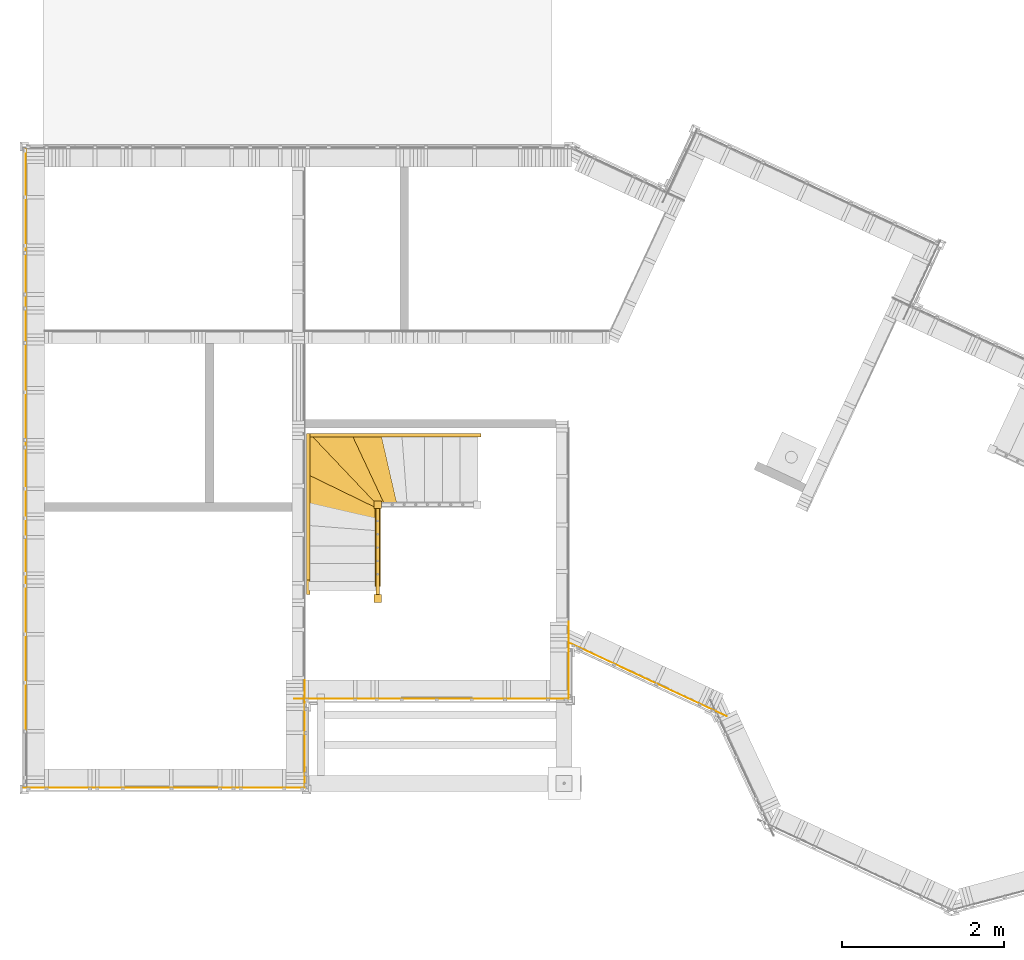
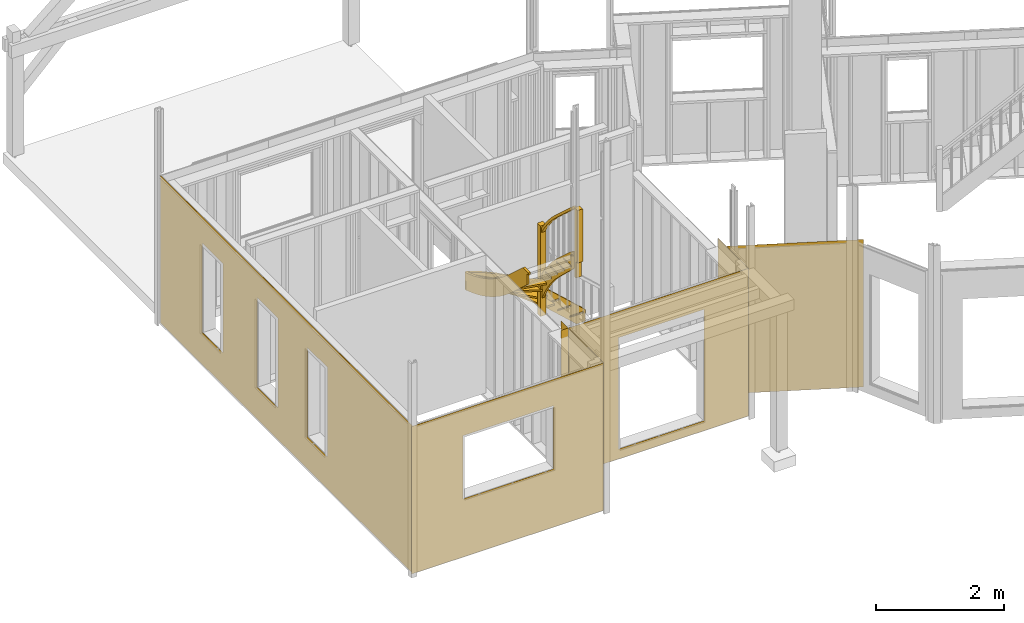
# One storey, part 29 of 34: 16 curtain walls.
"""IFC2X3 building model written with IfcOpenShell, lengths in metres."""

import ifcopenshell
import ifcopenshell.guid

model = None  # the IFC model being written
_history = None  # IfcOwnerHistory: only IFC2X3 demands one
_inside = {}  # id of a spatial element -> (the spatial element, [elements in it])
_under = {}  # id of a project, library or spatial element -> (it, [spatial elements below it])
_declared = {}  # id of a project -> (the project, [libraries it declares])
_typed = {}  # id of a type object -> (the type object, [elements of that type])
_made_of = {}  # id of a material, layer set ... -> (it, [elements and type objects made of it])


def new_model(schema):
    """Start an empty IFC model of exactly this schema.

    Asked for "IFC4X3", IfcOpenShell would pick the latest addendum, in which some entities
    have other attributes; the version numbers below select the first issue.
    IFC2X3 requires an IfcOwnerHistory on every rooted entity: one is made here for all.
    """
    global model, _history
    if schema == "IFC4X3":
        model = ifcopenshell.file(schema_version=(4, 3, 0, 0))
    else:
        model = ifcopenshell.file(schema=schema)
    _inside.clear()
    _under.clear()
    _declared.clear()
    _typed.clear()
    _made_of.clear()
    _history = None
    if model.schema == "IFC2X3":
        org = make("IfcOrganization", Name="unknown")
        user = make(
            "IfcPersonAndOrganization",
            ThePerson=make("IfcPerson", FamilyName="unknown"),
            TheOrganization=org,
        )
        app = make(
            "IfcApplication",
            ApplicationDeveloper=org,
            Version="unknown",
            ApplicationFullName="unknown",
            ApplicationIdentifier="unknown",
        )
        _history = make(
            "IfcOwnerHistory",
            OwningUser=user,
            OwningApplication=app,
            ChangeAction="ADDED",
            CreationDate=0,
        )
    return model


def make(cls, **values):
    """One entity of the class cls with the attributes given. An attribute that is None is left unset."""
    return model.create_entity(
        cls, **{name: value for name, value in values.items() if value is not None}
    )


def rooted(cls, **values):
    """An entity with a GlobalId (a new one), such as an element, a storey or a relation."""
    return make(cls, GlobalId=ifcopenshell.guid.new(), OwnerHistory=_history, **values)


def si_unit(unit_type, name, prefix=None):
    """IfcSIUnit, for example si_unit("LENGTHUNIT", "METRE", prefix="MILLI")."""
    return make("IfcSIUnit", UnitType=unit_type, Prefix=prefix, Name=name)


def assignment(units):
    """IfcUnitAssignment: the units of a project."""
    return None if units is None else make("IfcUnitAssignment", Units=units)


def point(xyz):
    """IfcCartesianPoint."""
    return None if xyz is None else make("IfcCartesianPoint", Coordinates=xyz)


def direction(xyz):
    """IfcDirection."""
    return None if xyz is None else make("IfcDirection", DirectionRatios=xyz)


def frame(location, z_axis=None, x_axis=None):
    """IfcAxis2Placement3D, a coordinate frame: its origin and axes. An axis left out is left unset."""
    return make(
        "IfcAxis2Placement3D",
        Location=point(location),
        Axis=direction(z_axis),
        RefDirection=direction(x_axis),
    )


def origin_with_axes():
    """The frame at (0, 0, 0) with the z axis (0, 0, 1) and the x axis (1, 0, 0) written out."""
    return frame((0.0, 0.0, 0.0), z_axis=(0.0, 0.0, 1.0), x_axis=(1.0, 0.0, 0.0))


def place(relative_to, where):
    """IfcLocalPlacement: puts the frame where relative to a parent placement (None: the world)."""
    return make(
        "IfcLocalPlacement", PlacementRelTo=relative_to, RelativePlacement=where
    )


def context(
    kind, dimensions, precision=None, world=None, true_north=None, identifier=None
):
    """IfcGeometricRepresentationContext, for example the 3D "Model" context."""
    return make(
        "IfcGeometricRepresentationContext",
        ContextIdentifier=identifier,
        ContextType=kind,
        CoordinateSpaceDimension=dimensions,
        Precision=precision,
        WorldCoordinateSystem=world,
        TrueNorth=true_north,
    )


def subcontext(parent, identifier, kind, view, scale=None):
    """IfcGeometricRepresentationSubContext, for example "Body" below "Model"."""
    return make(
        "IfcGeometricRepresentationSubContext",
        ContextIdentifier=identifier,
        ContextType=kind,
        ParentContext=parent,
        TargetScale=scale,
        TargetView=view,
    )


def project(units=None, contexts=None):
    """IfcProject with its units and contexts."""
    return rooted(
        "IfcProject",
        Name="project",
        RepresentationContexts=contexts,
        UnitsInContext=assignment(units),
    )


def spatial(cls, under=None, at=None, **own):
    """A site, building, storey or space (cls), placed at a placement, below another one or the project."""
    s = rooted(cls, ObjectPlacement=at, **own)
    if under is not None:
        _under.setdefault(under.id(), (under, []))[1].append(s)
    return s


def faces_of(points, faces, orient=None, outer=None):
    """IfcFace entities. A face is a list of loops; a loop is a list of indices into points, from 0.

    orient and outer hold one flag for each loop. By default every Orientation is true, the
    first loop of a face is its IfcFaceOuterBound and the others are IfcFaceBound.
    """
    made = []
    for i, loops in enumerate(faces):
        bounds = []
        for j, loop in enumerate(loops):
            is_outer = j == 0 if outer is None else outer[i][j]
            bounds.append(
                make(
                    "IfcFaceOuterBound" if is_outer else "IfcFaceBound",
                    Bound=make("IfcPolyLoop", Polygon=[points[k] for k in loop]),
                    Orientation=True if orient is None else orient[i][j],
                )
            )
        made.append(make("IfcFace", Bounds=bounds))
    return made


def faceted_brep(points, faces, orient=None, outer=None, voids=None):
    """IfcFacetedBrep: a solid bounded by flat faces; with voids (closed shells), ...WithVoids."""
    shared = [point(p) for p in points]
    hull = make("IfcClosedShell", CfsFaces=faces_of(shared, faces, orient, outer))
    if voids is None:
        return make("IfcFacetedBrep", Outer=hull)
    return make(
        "IfcFacetedBrepWithVoids",
        Outer=hull,
        Voids=[
            make(cls, CfsFaces=faces_of(shared, fs, o, b)) for cls, fs, o, b in voids
        ],
    )


def shape(context_of_items, identifier, shape_type, items):
    """IfcShapeRepresentation: the items that make up one representation, for example the "Body"."""
    return make(
        "IfcShapeRepresentation",
        ContextOfItems=context_of_items,
        RepresentationIdentifier=identifier,
        RepresentationType=shape_type,
        Items=items,
    )


def material(Name=None, Category=None):
    """IfcMaterial."""
    return make("IfcMaterial", Name=Name, Category=Category)


def made_of(thing, what):
    """Note that an element or type object is made of a material, layer set ...; save() writes the relation."""
    if what is not None:
        _made_of.setdefault(what.id(), (what, []))[1].append(thing)
    return thing


def element(
    cls,
    number,
    at=None,
    inside=None,
    cuts=None,
    type_object=None,
    material=None,
    context=None,
    identifier="Body",
    shape_type=None,
    held_by="IfcProductDefinitionShape",
    body=None,
    shapes=None,
    **own,
):
    """One element of the class cls, such as IfcWall. Its Tag is "e" and its number.

    at: its placement. inside: the storey or other place that contains it. cuts: it is an
    opening in that element (IfcRelVoidsElement). A single representation is given by context,
    identifier, shape_type and body (its items); several are given by shapes. held_by: the class
    of the entity that holds the representations. save() writes the other relations.
    """
    e = rooted(cls, Tag="e%d" % number, ObjectPlacement=at, **own)
    if body is not None:
        shapes = [shape(context, identifier, shape_type, body)]
    if shapes is not None:
        e.Representation = make(held_by, Representations=shapes)
    if inside is not None:
        _inside.setdefault(inside.id(), (inside, []))[1].append(e)
    if cuts is not None:
        rooted(
            "IfcRelVoidsElement", RelatingBuildingElement=cuts, RelatedOpeningElement=e
        )
    if type_object is not None:
        _typed.setdefault(type_object.id(), (type_object, []))[1].append(e)
    return made_of(e, material)


def aggregate(whole, parts):
    """IfcRelAggregates: a whole, such as a stair, and the parts it consists of."""
    return rooted("IfcRelAggregates", RelatingObject=whole, RelatedObjects=parts)


def save(model, path):
    """Write the relations noted so far, then the file.

    IfcRelAggregates (storeys below a building ...), IfcRelContainedInSpatialStructure (elements
    in a storey), IfcRelDefinesByType, IfcRelAssociatesMaterial and IfcRelDeclares: one each for
    every whole, place, type object, material and project.
    """
    for whole, parts in _under.values():
        aggregate(whole, parts)
    for where, things in _inside.values():
        rooted(
            "IfcRelContainedInSpatialStructure",
            RelatedElements=things,
            RelatingStructure=where,
        )
    for kind, things in _typed.values():
        rooted("IfcRelDefinesByType", RelatedObjects=things, RelatingType=kind)
    for what, things in _made_of.values():
        rooted("IfcRelAssociatesMaterial", RelatedObjects=things, RelatingMaterial=what)
    for by, libraries in _declared.values():
        rooted("IfcRelDeclares", RelatingContext=by, RelatedDefinitions=libraries)
    model.write(path)


model = new_model("IFC2X3")

# Units and contexts
model_context = context("Model", 3, precision=1e-06, world=origin_with_axes(), true_north=direction((0.0, 1.0, 0.0)))
body_context = subcontext(model_context, "Body", "Model", "MODEL_VIEW")
ifc_project = project(units=[si_unit("LENGTHUNIT", "METRE"), si_unit("AREAUNIT", "SQUARE_METRE"), si_unit("VOLUMEUNIT", "CUBIC_METRE"), si_unit("PLANEANGLEUNIT", "RADIAN")], contexts=[model_context])

# Site, building, storey
site_placement = place(None, origin_with_axes())
site = spatial("IfcSite", under=ifc_project, at=site_placement, CompositionType="ELEMENT")
building_placement = place(site_placement, origin_with_axes())
building = spatial("IfcBuilding", under=site, at=building_placement, Name="Building 1", CompositionType="ELEMENT")
storey_placement = place(building_placement, origin_with_axes())
storey = spatial("IfcBuildingStorey", under=building, at=storey_placement, Name="Rez de chaussée", CompositionType="ELEMENT", Elevation=0.0)

# Curtain walls
ifc_material_1 = material(Name="pare-pluie")
curtain_wall_1_placement = place(storey_placement, frame((3.44855, 0.6663641, -0.06), z_axis=(0.0, 0.0, 1.0), x_axis=(0.0, -1.0, 0.0)))
element("IfcCurtainWall", 1, at=curtain_wall_1_placement, inside=storey, material=ifc_material_1, Name="Pare-pluie", context=body_context, shape_type="Brep", body=[
    faceted_brep([(0.6664641, -0.00045, 2.823), (0.6664641, -0.00045, 0.0), (0.6664641, 0.00045, 0.0), (0.6664641, 0.00045, 2.823), (-0.6664641, -0.00045, 0.0), (-0.6664641, 0.00045, 0.0), (-0.6664641, -0.00045, 2.823), (-0.6664641, 0.00045, 2.823)], [[[0, 1, 2, 3]], [[2, 1, 4, 5]], [[1, 0, 6, 4]], [[0, 3, 7, 6]], [[6, 7, 5, 4]], [[3, 2, 5, 7]]]),
])
curtain_wall_2_placement = place(storey_placement, frame((5.01205, 1.1002781, -0.06), z_axis=(0.0, 0.0, 1.0), x_axis=(0.0, 1.0, 0.0)))
element("IfcCurtainWall", 2, at=curtain_wall_2_placement, inside=storey, material=ifc_material_1, Name="Pare-pluie", context=body_context, shape_type="Brep", body=[
    faceted_brep([(0.00045, -1.69605, 2.823), (-0.00045, -1.69605, 2.823), (-0.00045, -1.69605, 0.0), (0.00045, -1.69605, 0.0), (-0.00045, 1.69605, 2.823), (-0.00045, 1.69605, 0.0), (-0.00045, -0.8853876, 0.189), (-0.00045, 0.6546124, 0.189), (-0.00045, 0.6546124, 2.32), (-0.00045, -0.8853876, 2.32), (0.00045, 1.69605, 2.823), (0.00045, 0.6546124, 0.189), (0.00045, 0.6546124, 2.32), (0.00045, -0.8853876, 2.32), (0.00045, -0.8853876, 0.189), (0.00045, 1.69605, 0.0)], [[[0, 1, 2, 3]], [[2, 1, 4, 5], [6, 7, 8, 9]], [[1, 0, 10, 4]], [[8, 7, 11, 12]], [[9, 8, 12, 13]], [[6, 9, 13, 14]], [[7, 6, 14, 11]], [[4, 10, 15, 5]], [[3, 2, 5, 15]], [[0, 3, 15, 10], [14, 13, 12, 11]]]),
])
ifc_material_2 = material(Name="NH II")
curtain_wall_3_placement = place(storey_placement, frame((3.4707023, 4.3577176, 1.7899561), z_axis=(0.5668178, 0.0, 0.8238432), x_axis=(0.8238432, 0.0, -0.5668178)))
element("IfcCurtainWall", 3, at=curtain_wall_3_placement, inside=storey, material=ifc_material_2, Name="Escalier", context=body_context, shape_type="Brep", body=[
    faceted_brep([(2.5602899, -0.0205, -0.2048183), (1.8251752, -0.0205, -0.1023123), (2.5602899, 0.0205, -0.2048183), (1.8251752, 0.0205, -0.1023123), (2.6946711, -0.0205, -0.1123618), (2.5654796, -0.0205, 0.0048425), (2.5708781, -0.0205, 0.0675655), (2.5479083, -0.0205, 0.0303817), (2.2709408, -0.0205, 0.0459136), (2.3424665, -0.0205, -0.1109657), (2.0654941, -0.0205, -0.0954372), (2.3600379, -0.0205, -0.1365048), (2.2533694, -0.0205, 0.0714527), (1.7009376, -0.0205, 0.1888717), (1.9588289, -0.0205, 0.1125227), (1.6818639, -0.0205, 0.1280563), (1.7533872, -0.0205, -0.0288247), (1.5514009, -0.0205, -0.0734495), (1.7709585, -0.0205, -0.0543638), (1.9764003, -0.0205, 0.0869835), (2.0479227, -0.0205, -0.069898), (1.4506075, -0.0205, -0.031052), (1.2763081, -0.0205, -0.0629887), (1.4330362, -0.0205, -0.0055128), (1.3615857, -0.0205, 0.1514183), (1.1040221, -0.0205, -0.0257897), (1.4162261, -0.0205, 0.2184646), (1.6642926, -0.0205, 0.1535954), (1.3440144, -0.0205, 0.1769574), (1.1301428, -0.0205, 0.2280985), (1.0864508, -0.0205, -0.0002506), (1.0155666, -0.0205, 0.1570701), (1.0011324, -0.0205, -0.0709767), (0.7234937, -0.0205, -0.043881), (0.7271098, -0.0205, -0.0973778), (0.7059223, -0.0205, -0.0183418), (0.4554707, -0.0205, -0.1420732), (0.6369743, -0.0205, 0.140311), (0.200804, -0.0205, -0.1597814), (0.8440854, -0.0205, 0.2177262), (0.9979952, -0.0205, 0.1826092), (0.6194029, -0.0205, 0.1658501), (0.5594512, -0.0205, 0.1873985), (0.1832327, -0.0205, -0.1342423), (0.2776305, -0.0205, 0.1372635), (0.1210803, -0.0205, 0.029086), (0.1035089, -0.0205, 0.0546252), (0.1874353, -0.0205, -0.2048624), (0.1536578, -0.0205, -0.2281019), (0.0599401, -0.0205, -0.0918877), (0.0, -0.0205, 0.0675661), (0.0392986, -0.0205, 0.0104474), (0.05687, -0.0205, -0.0150918), (0.0937177, -0.0205, -0.0686481), (0.1085615, -0.0045, 0.0204729), (0.05687, -0.0045, -0.0150918), (0.0392986, -0.0045, 0.0104474), (0.0909902, -0.0045, 0.0460121), (0.0937177, 0.0205, -0.0686481), (0.0, 0.0205, 0.0675661), (0.200804, -0.0045, -0.1597814), (0.6308024, -0.0045, 0.1360646), (0.613231, -0.0045, 0.1616038), (0.1832327, -0.0045, -0.1342423), (0.7234937, -0.0045, -0.043881), (1.0125483, -0.0045, 0.1549934), (0.9949769, -0.0045, 0.1805326), (0.7059223, -0.0045, -0.0183418), (1.3605788, -0.0045, 0.1507255), (1.1040221, -0.0045, -0.0257897), (1.3430074, -0.0045, 0.1762647), (1.0864508, -0.0045, -0.0002506), (1.6642926, -0.0045, 0.1535954), (1.4330362, -0.0045, -0.0055128), (1.6818639, -0.0045, 0.1280563), (1.4506075, -0.0045, -0.031052), (1.7709585, -0.0045, -0.0543638), (1.7533872, -0.0045, -0.0288247), (1.9588289, -0.0045, 0.1125227), (1.9764003, -0.0045, 0.0869835), (2.0654941, -0.0045, -0.0954372), (2.0479227, -0.0045, -0.069898), (2.2533694, -0.0045, 0.0714527), (2.2709408, -0.0045, 0.0459136), (2.3600379, -0.0045, -0.1365048), (2.3424665, -0.0045, -0.1109657), (2.5479083, -0.0045, 0.0303817), (2.5654796, -0.0045, 0.0048425), (0.0599401, 0.0205, -0.0918877), (0.1536578, 0.0205, -0.2281019), (0.1874353, 0.0205, -0.2048624), (0.2776305, 0.0205, 0.1372635), (0.5594512, 0.0205, 0.1873985), (0.8440854, 0.0205, 0.2177262), (1.1301428, 0.0205, 0.2280985), (1.4162261, 0.0205, 0.2184646), (1.7009376, 0.0205, 0.1888717), (2.5708781, 0.0205, 0.0675655), (2.6946711, 0.0205, -0.1123618), (1.5514009, 0.0205, -0.0734495), (1.2763081, 0.0205, -0.0629887), (1.0011324, 0.0205, -0.0709767), (0.7271098, 0.0205, -0.0973778), (0.4554707, 0.0205, -0.1420732)], [[[0, 1, 2]], [[2, 1, 3]], [[0, 4, 5]], [[5, 4, 6]], [[5, 6, 7]], [[7, 6, 8]], [[7, 8, 9]], [[9, 8, 10]], [[9, 10, 11]], [[11, 10, 0]], [[11, 0, 5]], [[8, 6, 12]], [[12, 6, 13]], [[12, 13, 14]], [[14, 13, 15]], [[14, 15, 16]], [[16, 15, 17]], [[16, 17, 18]], [[18, 17, 1]], [[18, 1, 19]], [[19, 1, 20]], [[19, 20, 12]], [[0, 10, 1]], [[1, 10, 20]], [[14, 19, 12]], [[15, 21, 17]], [[17, 21, 22]], [[21, 23, 22]], [[22, 23, 24]], [[22, 24, 25]], [[24, 23, 26]], [[26, 23, 27]], [[26, 27, 13]], [[13, 27, 15]], [[24, 26, 28]], [[28, 26, 29]], [[28, 29, 30]], [[30, 29, 31]], [[30, 31, 32]], [[32, 31, 33]], [[32, 33, 34]], [[34, 33, 35]], [[34, 35, 36]], [[36, 35, 37]], [[36, 37, 38]], [[22, 25, 32]], [[32, 25, 30]], [[37, 35, 39]], [[39, 35, 40]], [[39, 40, 29]], [[29, 40, 31]], [[37, 39, 41]], [[41, 39, 42]], [[41, 42, 43]], [[43, 42, 44]], [[43, 44, 45]], [[45, 44, 46]], [[36, 38, 47]], [[47, 38, 43]], [[47, 43, 48]], [[48, 43, 49]], [[44, 50, 46]], [[46, 50, 51]], [[52, 53, 45]], [[45, 53, 43]], [[53, 49, 43]], [[45, 54, 52]], [[52, 54, 55]], [[55, 54, 56]], [[56, 54, 57]], [[46, 51, 57]], [[57, 51, 56]], [[57, 54, 46]], [[46, 54, 45]], [[52, 55, 53]], [[53, 55, 58]], [[55, 56, 58]], [[58, 56, 59]], [[51, 50, 56]], [[56, 50, 59]], [[60, 38, 61]], [[61, 38, 37]], [[62, 61, 41]], [[41, 61, 37]], [[62, 63, 61]], [[61, 63, 60]], [[62, 41, 43]], [[62, 43, 63]], [[38, 60, 43]], [[43, 60, 63]], [[64, 33, 65]], [[65, 33, 31]], [[66, 40, 35]], [[66, 35, 67]], [[66, 65, 40]], [[40, 65, 31]], [[66, 67, 65]], [[65, 67, 64]], [[33, 64, 35]], [[35, 64, 67]], [[24, 68, 25]], [[25, 68, 69]], [[28, 30, 70]], [[70, 30, 71]], [[70, 71, 68]], [[68, 71, 69]], [[25, 69, 30]], [[30, 69, 71]], [[28, 70, 24]], [[24, 70, 68]], [[27, 23, 72]], [[72, 23, 73]], [[27, 72, 15]], [[15, 72, 74]], [[21, 15, 75]], [[75, 15, 74]], [[75, 74, 73]], [[73, 74, 72]], [[21, 75, 23]], [[23, 75, 73]], [[18, 76, 16]], [[16, 76, 77]], [[14, 16, 78]], [[78, 16, 77]], [[19, 14, 79]], [[79, 14, 78]], [[78, 77, 79]], [[79, 77, 76]], [[18, 19, 76]], [[76, 19, 79]], [[10, 80, 20]], [[20, 80, 81]], [[12, 20, 82]], [[82, 20, 81]], [[80, 83, 81]], [[81, 83, 82]], [[12, 82, 8]], [[8, 82, 83]], [[10, 8, 80]], [[80, 8, 83]], [[11, 84, 9]], [[9, 84, 85]], [[7, 9, 86]], [[86, 9, 85]], [[84, 87, 85]], [[85, 87, 86]], [[7, 86, 5]], [[5, 86, 87]], [[11, 5, 84]], [[84, 5, 87]], [[49, 88, 48]], [[48, 88, 89]], [[58, 88, 53]], [[53, 88, 49]], [[89, 90, 48]], [[48, 90, 47]], [[50, 44, 59]], [[59, 44, 91]], [[44, 42, 91]], [[91, 42, 92]], [[42, 39, 92]], [[92, 39, 93]], [[39, 29, 93]], [[93, 29, 94]], [[29, 26, 94]], [[94, 26, 95]], [[26, 13, 95]], [[95, 13, 96]], [[13, 6, 96]], [[96, 6, 97]], [[98, 97, 4]], [[4, 97, 6]], [[2, 98, 0]], [[0, 98, 4]], [[1, 17, 3]], [[3, 17, 99]], [[17, 22, 99]], [[99, 22, 100]], [[22, 32, 100]], [[100, 32, 101]], [[32, 34, 101]], [[101, 34, 102]], [[34, 36, 102]], [[102, 36, 103]], [[36, 47, 103]], [[103, 47, 90]], [[98, 2, 97]], [[97, 2, 3]], [[97, 3, 96]], [[96, 3, 99]], [[96, 99, 95]], [[95, 99, 100]], [[95, 100, 94]], [[94, 100, 101]], [[94, 101, 93]], [[93, 101, 102]], [[93, 102, 92]], [[92, 102, 103]], [[92, 103, 91]], [[91, 103, 90]], [[91, 90, 58]], [[58, 90, 89]], [[58, 89, 88]], [[58, 59, 91]]]),
])
curtain_wall_4_placement = place(storey_placement, frame((1.71155, -0.00055, -0.06), z_axis=(0.0, 0.0, 1.0), x_axis=(-1.0, 0.0, 0.0)))
element("IfcCurtainWall", 4, at=curtain_wall_4_placement, inside=storey, material=ifc_material_1, Name="Pare-pluie", context=body_context, shape_type="Brep", body=[
    faceted_brep([(-1.73655, -0.00045, 2.823), (-1.73655, 0.00045, 2.823), (-1.73655, 0.00045, 0.0), (-1.73655, -0.00045, 0.0), (1.73655, 0.00045, 2.823), (1.73655, 0.00045, 0.0), (-0.83245, 0.00045, 1.112), (0.80755, 0.00045, 1.112), (0.80755, 0.00045, 2.32), (-0.83245, 0.00045, 2.32), (1.73655, -0.00045, 2.823), (-0.83245, -0.00045, 2.32), (-0.83245, -0.00045, 1.112), (0.80755, -0.00045, 2.32), (0.80755, -0.00045, 1.112), (1.73655, -0.00045, 0.0)], [[[0, 1, 2, 3]], [[2, 1, 4, 5], [6, 7, 8, 9]], [[1, 0, 10, 4]], [[11, 12, 6, 9]], [[13, 11, 9, 8]], [[14, 13, 8, 7]], [[12, 14, 7, 6]], [[0, 3, 15, 10], [13, 14, 12, 11]], [[4, 10, 15, 5]], [[3, 2, 5, 15]]]),
])
curtain_wall_5_placement = place(storey_placement, frame((6.70855, 1.5761012, -0.06), z_axis=(0.0, 0.0, 1.0), x_axis=(0.0, -1.0, 0.0)))
element("IfcCurtainWall", 5, at=curtain_wall_5_placement, inside=storey, material=ifc_material_1, Name="Pare-pluie", context=body_context, shape_type="Brep", body=[
    faceted_brep([(0.4753731, 0.00045, 2.823), (0.4753731, -0.00045, 2.823), (0.4753731, -0.00045, 0.0), (0.4753731, 0.00045, 0.0), (-0.4753731, -0.00045, 2.823), (-0.4753731, -0.00045, 0.0), (-0.4753731, 0.00045, 2.823), (-0.4753731, 0.00045, 0.0)], [[[0, 1, 2, 3]], [[2, 1, 4, 5]], [[1, 0, 6, 4]], [[4, 6, 7, 5]], [[0, 3, 7, 6]], [[3, 2, 5, 7]]]),
])
curtain_wall_6_placement = place(storey_placement, frame((-0.00055, 3.954, -0.06), z_axis=(0.0, 0.0, 1.0), x_axis=(0.0, 1.0, 0.0)))
element("IfcCurtainWall", 6, at=curtain_wall_6_placement, inside=storey, material=ifc_material_1, Name="Pare-pluie", context=body_context, shape_type="Brep", body=[
    faceted_brep([(-3.9541, -0.00045, 0.0), (-3.9541, -0.00045, 2.823), (-3.9541, 0.00045, 2.823), (-3.9541, 0.00045, 0.0), (3.9541, -0.00045, 2.823), (3.9541, 0.00045, 2.823), (3.9541, -0.00045, 0.0), (1.9941735, -0.00045, 0.612), (1.9941735, -0.00045, 2.32), (2.6341735, -0.00045, 2.32), (2.6341735, -0.00045, 0.612), (0.2738031, -0.00045, 0.612), (0.2738031, -0.00045, 2.32), (0.9138031, -0.00045, 2.32), (0.9138031, -0.00045, 0.612), (-1.2839436, -0.00045, 0.612), (-1.2839436, -0.00045, 2.32), (-0.6439436, -0.00045, 2.32), (-0.6439436, -0.00045, 0.612), (3.9541, 0.00045, 0.0), (2.6341735, 0.00045, 2.32), (2.6341735, 0.00045, 0.612), (1.9941735, 0.00045, 2.32), (1.9941735, 0.00045, 0.612), (0.9138031, 0.00045, 2.32), (0.9138031, 0.00045, 0.612), (0.2738031, 0.00045, 2.32), (0.2738031, 0.00045, 0.612), (-0.6439436, 0.00045, 2.32), (-0.6439436, 0.00045, 0.612), (-1.2839436, 0.00045, 2.32), (-1.2839436, 0.00045, 0.612)], [[[0, 1, 2, 3]], [[2, 1, 4, 5]], [[1, 0, 6, 4], [7, 8, 9, 10], [11, 12, 13, 14], [15, 16, 17, 18]], [[5, 4, 6, 19]], [[20, 21, 10, 9]], [[22, 20, 9, 8]], [[23, 22, 8, 7]], [[21, 23, 7, 10]], [[24, 25, 14, 13]], [[26, 24, 13, 12]], [[27, 26, 12, 11]], [[25, 27, 11, 14]], [[28, 29, 18, 17]], [[30, 28, 17, 16]], [[31, 30, 16, 15]], [[29, 31, 15, 18]], [[3, 2, 5, 19], [20, 22, 23, 21], [24, 26, 27, 25], [28, 30, 31, 29]], [[0, 3, 19, 6]]]),
])
curtain_wall_7_placement = place(storey_placement, frame((4.3475, 3.4987176, 1.2582827), z_axis=(0.0, 0.0, 1.0), x_axis=(0.0, 1.0, 0.0)))
element("IfcCurtainWall", 7, at=curtain_wall_7_placement, inside=storey, material=ifc_material_2, Name="Escalier", context=body_context, shape_type="Brep", body=[
    faceted_brep([(-0.0485, 0.0485, 1.7321335), (0.0485, 0.0485, 1.7321335), (0.0485, 0.0485, 0.0), (-0.0485, 0.0485, 0.0), (0.0485, -0.0485, 1.7321335), (0.0485, -0.0485, 0.0), (-0.0485, -0.0485, 1.7321335), (-0.0485, -0.0485, 0.0)], [[[0, 1, 2, 3]], [[1, 4, 5, 2]], [[4, 6, 7, 5]], [[6, 0, 3, 7]], [[1, 0, 6, 4]], [[7, 3, 2, 5]]]),
])
curtain_wall_8_placement = place(storey_placement, frame((4.3475, 2.3407176, 2.6691968), z_axis=(0.0, 0.0, 1.0), x_axis=(-1.0, 0.0, 0.0)))
element("IfcCurtainWall", 8, at=curtain_wall_8_placement, inside=storey, material=ifc_material_2, Name="Escalier", context=body_context, shape_type="Brep", body=[
    faceted_brep([(-0.0485, 0.0025, 0.0), (-0.0485, 0.0025, 0.3118032), (0.0485, 0.0025, 0.3118032), (0.0485, 0.0025, 0.0), (-0.0485, 0.0485, 0.3118032), (0.0485, 0.0485, 0.3118032), (0.0485, -0.0485, 1.319462), (-0.0485, -0.0485, 1.319462), (-0.0485, -0.0485, 0.0), (0.0485, -0.0485, 0.0), (0.0485, 0.0485, 1.319462), (-0.0485, 0.0485, 1.319462)], [[[0, 1, 2, 3]], [[1, 4, 5, 2]], [[6, 7, 8, 9]], [[10, 11, 7, 6]], [[0, 3, 9, 8]], [[3, 2, 5, 10, 6, 9]], [[1, 0, 8, 7, 11, 4]], [[5, 4, 11, 10]]]),
])
curtain_wall_9_placement = place(storey_placement, frame((7.6843764, 1.3395193, -0.06), z_axis=(0.0, 0.0, 1.0), x_axis=(-0.9063078, 0.4226183, 0.0)))
element("IfcCurtainWall", 9, at=curtain_wall_9_placement, inside=storey, material=ifc_material_1, Name="Pare-pluie", context=body_context, shape_type="Brep", body=[
    faceted_brep([(1.0777481, -0.00045, 2.823), (-1.0777481, -0.00045, 2.823), (-1.0777481, -0.00045, 0.0), (1.0777481, -0.00045, 0.0), (-1.0777481, 0.00045, 0.0), (1.0777481, 0.00045, 0.0), (-1.0777481, 0.00045, 2.823), (1.0777481, 0.00045, 2.823)], [[[0, 1, 2, 3]], [[4, 5, 3, 2]], [[6, 7, 5, 4]], [[7, 0, 3, 5]], [[7, 6, 1, 0]], [[1, 6, 4, 2]]]),
])
curtain_wall_10_placement = place(storey_placement, frame((4.2490256, 3.3390162, 1.760788), z_axis=(0.0, 0.0, 1.0), x_axis=(-0.6886437, 0.7250999, 0.0)))
element("IfcCurtainWall", 10, at=curtain_wall_10_placement, inside=storey, material=ifc_material_2, Name="Escalier", context=body_context, shape_type="Brep", body=[
    faceted_brep([(0.8795447, 0.2073269, -0.0155), (0.8795447, 0.2073269, 0.0155), (1.2560296, -0.1502293, 0.0155), (1.2560296, -0.1502293, -0.0155), (0.0110183, -0.1180004, 0.0155), (0.0, -0.129602, 0.0155), (0.0543475, -0.1812171, 0.0155), (0.0400168, -0.1963064, 0.0155), (0.0516184, -0.2073247, 0.0155), (1.1797368, -0.2073269, 0.0155), (1.2018027, -0.2073269, 0.0155), (1.2018027, -0.2073269, -0.0155), (1.1797368, -0.2073269, -0.0155), (0.0543475, -0.1812171, -0.0155), (0.0400168, -0.1963064, -0.0155), (0.0, -0.129602, -0.0155), (0.0516184, -0.2073247, -0.0155), (0.0110183, -0.1180004, -0.0155)], [[[0, 1, 2, 3]], [[1, 4, 5, 6, 7, 8, 9, 10, 2]], [[11, 10, 9, 12]], [[10, 11, 3, 2]], [[13, 14, 7, 6]], [[15, 13, 6, 5]], [[14, 16, 8, 7]], [[17, 15, 5, 4]], [[16, 12, 9, 8]], [[17, 0, 3, 11, 12, 16, 14, 13, 15]], [[0, 17, 4, 1]]]),
])
curtain_wall_11_placement = place(storey_placement, frame((4.3475, 3.477874, 2.8837183), z_axis=(0.0, -0.6759316, 0.7369643), x_axis=(-1.0, 0.0, 0.0)))
element("IfcCurtainWall", 11, at=curtain_wall_11_placement, inside=storey, material=ifc_material_2, Name="Escalier", context=body_context, shape_type="Brep", body=[
    faceted_brep([(0.034, -0.0179421, 0.0604781), (-0.034, -0.0179421, 0.0604781), (0.034, 0.0375275, 0.0), (-0.034, 0.0375275, 0.0), (0.034, 0.0558508, 1.4017636), (0.034, -0.0015997, 0.7459118), (-0.034, 0.0558508, 1.4017636), (-0.034, -0.0015997, 0.7459118), (-0.034, 0.0155368, 1.4457177), (-0.034, -0.0454357, 0.7497517), (0.034, 0.0155368, 1.4457177), (0.034, -0.0454357, 0.7497517), (-0.034, 0.0130262, 0.147839), (0.034, 0.0130262, 0.147839), (-0.034, -0.0031748, 0.2968162), (0.034, -0.0031748, 0.2968162), (-0.034, -0.0110247, 0.4464661), (0.034, -0.0110247, 0.4464661), (-0.034, -0.0104992, 0.5963207), (0.034, -0.0104992, 0.5963207), (-0.034, -0.0413014, 0.2317874), (-0.034, -0.0536962, 0.4042371), (-0.034, -0.0550762, 0.5771261), (0.034, -0.0413014, 0.2317874), (0.034, -0.0536962, 0.4042371), (0.034, -0.0550762, 0.5771261)], [[[0, 1, 2]], [[2, 1, 3]], [[4, 5, 6]], [[6, 5, 7]], [[8, 9, 10]], [[10, 9, 11]], [[8, 10, 6]], [[6, 10, 4]], [[3, 12, 2]], [[2, 12, 13]], [[12, 14, 13]], [[13, 14, 15]], [[14, 16, 15]], [[15, 16, 17]], [[16, 18, 17]], [[17, 18, 19]], [[18, 7, 19]], [[19, 7, 5]], [[3, 1, 12]], [[12, 1, 20]], [[12, 20, 14]], [[14, 20, 21]], [[14, 21, 16]], [[16, 21, 22]], [[16, 22, 18]], [[18, 22, 9]], [[18, 9, 7]], [[7, 9, 6]], [[9, 8, 6]], [[2, 13, 0]], [[0, 13, 23]], [[13, 15, 23]], [[23, 15, 24]], [[15, 17, 24]], [[24, 17, 25]], [[17, 19, 25]], [[25, 19, 11]], [[19, 5, 11]], [[11, 5, 4]], [[11, 4, 10]], [[0, 23, 1]], [[1, 23, 20]], [[23, 24, 20]], [[20, 24, 21]], [[24, 25, 21]], [[21, 25, 22]], [[25, 11, 22]], [[22, 11, 9]]]),
])
curtain_wall_12_placement = place(storey_placement, frame((4.3475, 3.585461, 1.7262843), z_axis=(0.0, -0.6759316, 0.7369643), x_axis=(-1.0, 0.0, 0.0)))
element("IfcCurtainWall", 12, at=curtain_wall_12_placement, inside=storey, material=ifc_material_2, Name="Escalier", context=body_context, shape_type="Brep", body=[
    faceted_brep([(0.0205, -0.067247, 1.8451449), (-0.0205, -0.067247, 1.8451449), (0.0205, -0.1251286, 1.6420569), (-0.0205, -0.1251286, 1.6420569), (-0.0205, 0.1326957, 1.6271485), (0.0205, 0.1326957, 1.6271485), (-0.0205, 0.084154, 0.923), (0.0205, 0.084154, 0.923), (0.0205, -0.0192586, 1.7928234), (0.0045, -0.0192586, 1.7928234), (0.0205, -0.0656873, 1.6002397), (0.0045, -0.0656873, 1.6002397), (0.0045, -0.0402124, 1.8156693), (0.0205, -0.0402124, 1.8156693), (0.0045, -0.0866412, 1.6230856), (0.0205, -0.0866412, 1.6230856), (0.0205, 0.0711853, 1.4953915), (0.0205, 0.0921392, 1.4725456), (0.0205, 0.066186, 1.1762916), (0.0205, -0.117593, 1.0077325), (0.0205, 0.0192797, 0.9028842), (0.0205, -0.1831045, 0.9052228), (0.0205, -0.1414751, 0.7554426), (0.0205, -0.1798341, 0.7179456), (0.0205, -0.1205212, 0.7325967), (0.0205, -0.163493, 0.5313541), (0.0205, 0.0164159, 0.6278075), (0.0205, -0.1213784, 0.5014249), (0.0205, -0.1125915, 1.3268344), (0.0205, -0.1732881, 1.0922711), (0.0205, -0.0916376, 1.3039885), (0.0205, -0.1385469, 1.0305784), (0.0205, 0.0452321, 1.1991375), (0.0205, -0.1341609, 0.3463594), (0.0205, -0.1004245, 0.478579), (0.0205, -0.0698471, 0.2762384), (0.0205, 0.0370213, 0.3742564), (0.0205, 0.0658705, 0.1282663), (0.0205, 0.0820481, 0.1431042), (0.0205, -0.0488932, 0.2533925), (0.0205, 0.1349647, 0.1803771), (0.0205, 0.0579752, 0.3514105), (0.0205, 0.1005893, 0.3639834), (0.0205, 0.0805964, 0.5497069), (0.0205, 0.0373697, 0.6049616), (0.0205, 0.103002, 0.1202583), (0.0205, 0.1835142, 0.0), (0.0205, 0.0868244, 0.1054204), (0.0205, 0.0751068, 0.7364227), (0.0205, 0.0402335, 0.8800383), (0.0045, 0.0711853, 1.4953915), (0.0045, 0.0921392, 1.4725456), (0.0045, -0.0916376, 1.3039885), (0.0045, -0.1125915, 1.3268344), (0.0045, 0.0452321, 1.1991375), (0.0045, 0.066186, 1.1762916), (0.0045, -0.117593, 1.0077325), (0.0045, -0.1385469, 1.0305784), (0.0045, 0.0192797, 0.9028842), (0.0045, 0.0402335, 0.8800383), (0.0045, -0.1196205, 0.7334228), (0.0045, -0.1405744, 0.7562687), (0.0045, -0.0977223, 0.4810574), (0.0045, 0.0373697, 0.6049616), (0.0045, -0.1186762, 0.5039033), (0.0045, 0.0164159, 0.6278075), (0.0045, 0.0579752, 0.3514105), (0.0045, -0.0488932, 0.2533925), (0.0045, -0.0698471, 0.2762384), (0.0045, 0.0370213, 0.3742564), (0.0045, 0.0658705, 0.1282663), (-0.0205, -0.1341609, 0.3463594), (-0.0205, 0.1835142, 0.0), (0.0045, 0.0868244, 0.1054204), (0.0045, 0.103002, 0.1202583), (0.0045, 0.0820481, 0.1431042), (-0.0205, -0.1732881, 1.0922711), (-0.0205, 0.1349647, 0.1803771), (-0.0205, 0.1005893, 0.3639834), (-0.0205, 0.0805964, 0.5497069), (-0.0205, 0.0751068, 0.7364227), (-0.0205, -0.1831045, 0.9052228), (-0.0205, -0.1798341, 0.7179456), (-0.0205, -0.163493, 0.5313541)], [[[0, 1, 2]], [[2, 1, 3]], [[4, 5, 6]], [[6, 5, 7]], [[8, 9, 10]], [[10, 9, 11]], [[12, 13, 14]], [[14, 13, 15]], [[13, 12, 0]], [[0, 12, 1]], [[12, 9, 1]], [[1, 9, 4]], [[8, 5, 9]], [[9, 5, 4]], [[16, 17, 5]], [[5, 17, 18]], [[5, 18, 7]], [[7, 18, 19]], [[7, 19, 20]], [[20, 19, 21]], [[20, 21, 22]], [[22, 21, 23]], [[22, 23, 24]], [[24, 23, 25]], [[24, 25, 26]], [[26, 25, 27]], [[8, 10, 5]], [[5, 10, 16]], [[15, 2, 10]], [[10, 2, 28]], [[10, 28, 16]], [[15, 13, 2]], [[2, 13, 0]], [[2, 29, 28]], [[28, 29, 30]], [[21, 31, 29]], [[29, 31, 32]], [[29, 32, 30]], [[30, 32, 17]], [[25, 33, 27]], [[27, 33, 34]], [[35, 36, 33]], [[33, 36, 34]], [[37, 38, 39]], [[39, 38, 40]], [[39, 40, 41]], [[41, 40, 42]], [[41, 42, 36]], [[36, 42, 43]], [[36, 43, 34]], [[34, 43, 44]], [[38, 45, 40]], [[40, 45, 46]], [[45, 47, 46]], [[43, 48, 44]], [[44, 48, 26]], [[7, 49, 48]], [[48, 49, 24]], [[48, 24, 26]], [[19, 31, 21]], [[32, 18, 17]], [[20, 49, 7]], [[11, 9, 14]], [[14, 9, 12]], [[10, 11, 15]], [[15, 11, 14]], [[16, 50, 17]], [[17, 50, 51]], [[17, 51, 30]], [[30, 51, 52]], [[52, 51, 53]], [[53, 51, 50]], [[30, 52, 28]], [[28, 52, 53]], [[28, 53, 16]], [[16, 53, 50]], [[32, 54, 18]], [[18, 54, 55]], [[18, 55, 19]], [[19, 55, 56]], [[31, 19, 57]], [[57, 19, 56]], [[31, 57, 32]], [[32, 57, 54]], [[56, 55, 57]], [[57, 55, 54]], [[20, 58, 49]], [[49, 58, 59]], [[24, 49, 60]], [[60, 49, 59]], [[22, 24, 61]], [[61, 24, 60]], [[22, 61, 20]], [[20, 61, 58]], [[60, 59, 61]], [[61, 59, 58]], [[34, 44, 62]], [[62, 44, 63]], [[27, 34, 64]], [[64, 34, 62]], [[27, 64, 26]], [[26, 64, 65]], [[62, 63, 64]], [[64, 63, 65]], [[63, 44, 65]], [[65, 44, 26]], [[41, 66, 39]], [[39, 66, 67]], [[67, 66, 68]], [[68, 66, 69]], [[35, 68, 36]], [[36, 68, 69]], [[66, 41, 69]], [[69, 41, 36]], [[39, 67, 37]], [[37, 67, 70]], [[70, 67, 71]], [[71, 67, 68]], [[71, 68, 33]], [[33, 68, 35]], [[71, 72, 70]], [[70, 72, 73]], [[72, 46, 73]], [[73, 46, 47]], [[45, 74, 47]], [[47, 74, 73]], [[73, 74, 70]], [[70, 74, 75]], [[37, 70, 38]], [[38, 70, 75]], [[74, 45, 75]], [[75, 45, 38]], [[3, 76, 2]], [[2, 76, 29]], [[72, 77, 46]], [[46, 77, 40]], [[77, 78, 40]], [[40, 78, 42]], [[78, 79, 42]], [[42, 79, 43]], [[79, 80, 43]], [[43, 80, 48]], [[80, 6, 48]], [[48, 6, 7]], [[3, 4, 76]], [[76, 4, 6]], [[76, 6, 81]], [[81, 6, 80]], [[81, 80, 82]], [[82, 80, 79]], [[82, 79, 83]], [[83, 79, 71]], [[3, 1, 4]], [[79, 78, 71]], [[71, 78, 77]], [[71, 77, 72]], [[33, 25, 71]], [[71, 25, 83]], [[25, 23, 83]], [[83, 23, 82]], [[23, 21, 82]], [[82, 21, 81]], [[21, 29, 81]], [[81, 29, 76]]]),
])
curtain_wall_13_placement = place(storey_placement, frame((4.328492, 3.2753843, 1.961574), z_axis=(0.0, 0.0, 1.0), x_axis=(-0.8992333, 0.4374693, 0.0)))
element("IfcCurtainWall", 13, at=curtain_wall_13_placement, inside=storey, material=ifc_material_2, Name="Escalier", context=body_context, shape_type="Brep", body=[
    faceted_brep([(0.8479577, 0.1668235, -0.0155), (0.8479577, 0.1668235, 0.0155), (1.0068689, -0.159824, 0.0155), (1.0068689, -0.159824, -0.0155), (0.0143877, -0.0261639, 0.0155), (0.0, -0.0331634, 0.0155), (0.0650245, -0.1668235, 0.0155), (0.9924812, -0.1668235, 0.0155), (0.0650245, -0.1668235, -0.0155), (0.0, -0.0331634, -0.0155), (0.0143877, -0.0261639, -0.0155), (0.9924812, -0.1668235, -0.0155)], [[[0, 1, 2, 3]], [[1, 4, 5, 6, 7, 2]], [[8, 6, 5, 9]], [[10, 9, 5, 4]], [[11, 3, 2, 7]], [[8, 11, 7, 6]], [[10, 0, 3, 11, 8, 9]], [[0, 10, 4, 1]]]),
])
curtain_wall_14_placement = place(storey_placement, frame((4.4189245, 3.4654201, 1.359216), z_axis=(0.0, 0.0, 1.0), x_axis=(-0.2233746, 0.9747327, 0.0)))
element("IfcCurtainWall", 14, at=curtain_wall_14_placement, inside=storey, material=ifc_material_2, Name="Escalier", context=body_context, shape_type="Brep", body=[
    faceted_brep([(0.9339927, 0.1727849, 0.0155), (0.0337917, -0.0217551, 0.0155), (0.0, -0.1692109, 0.0155), (0.0155957, -0.1727849, 0.0155), (0.8548009, -0.172782, 0.0155), (0.8712149, -0.1727849, 0.0155), (0.9495884, 0.1692109, 0.0155), (0.8712149, -0.1727849, -0.0155), (0.8548136, -0.1727849, -0.0155), (0.9495884, 0.1692109, -0.0155), (0.0337917, -0.0217551, -0.0155), (0.0, -0.1692109, -0.0155), (0.0155957, -0.1727849, -0.0155), (0.9339927, 0.1727849, -0.0155)], [[[0, 1, 2, 3, 4, 5, 6]], [[7, 5, 4, 8]], [[5, 7, 9, 6]], [[1, 10, 11, 2]], [[11, 12, 3, 2]], [[8, 4, 8]], [[9, 13, 0, 6]], [[12, 8, 4, 3]], [[10, 13, 9, 7, 8, 12, 11]], [[13, 10, 1, 0]]]),
])
curtain_wall_15_placement = place(storey_placement, frame((4.247285, 3.4044002, 1.560002), z_axis=(0.0, 0.0, 1.0), x_axis=(-0.4242283, 0.9055553, 0.0)))
element("IfcCurtainWall", 15, at=curtain_wall_15_placement, inside=storey, material=ifc_material_2, Name="Escalier", context=body_context, shape_type="Brep", body=[
    faceted_brep([(0.5163317, -0.2397175, -0.0155), (0.5163317, -0.2397175, 0.0155), (0.0144792, -0.2397175, 0.0155), (0.0144792, -0.2397175, -0.0155), (0.9354729, -0.2397175, -0.0155), (0.9354729, -0.2397175, 0.0155), (0.9178136, -0.2397175, 0.0155), (0.9178136, -0.2397175, -0.0155), (1.1568955, 0.2329299, -0.0155), (1.1568955, 0.2329299, 0.0155), (1.1424066, 0.2397175, 0.0155), (0.0658076, -0.1188579, 0.0155), (0.05902, -0.1333468, 0.0155), (0.0488796, -0.1285963, 0.0155), (0.0, -0.2329344, 0.0155), (0.0488796, -0.1285963, -0.0155), (0.0, -0.2329344, -0.0155), (0.05902, -0.1333468, -0.0155), (0.0658076, -0.1188579, -0.0155), (1.1424066, 0.2397175, -0.0155)], [[[0, 1, 2, 3]], [[4, 5, 6, 7]], [[5, 4, 8, 9]], [[6, 5, 9, 10, 11, 12, 13, 14, 2, 1, 6]], [[1, 0, 7, 6]], [[15, 16, 14, 13]], [[17, 15, 13, 12]], [[3, 2, 14, 16]], [[18, 17, 12, 11]], [[7, 6, 7]], [[8, 19, 10, 9]], [[4, 7, 0, 3, 16, 15, 17, 18, 19, 8]], [[19, 18, 11, 10]]]),
])
curtain_wall_16_placement = place(storey_placement, frame((3.4885, 2.349466, 2.9587483), z_axis=(0.0, 0.5662015, 0.8242669), x_axis=(0.0, 0.8242669, -0.5662015)))
element("IfcCurtainWall", 16, at=curtain_wall_16_placement, inside=storey, material=ifc_material_2, Name="Escalier", context=body_context, shape_type="Brep", body=[
    faceted_brep([(0.0605538, -0.0205, 0.0685959), (0.0605538, -0.0045, 0.0685959), (0.1545203, -0.0205, 0.1331429), (0.1545203, -0.0045, 0.1331429), (0.0781061, -0.0045, 0.0430436), (0.1720725, -0.0045, 0.1075906), (0.1720725, -0.0205, 0.1075906), (0.0781061, -0.0205, 0.0430436), (0.0226481, -0.0205, 0.042553), (0.0, -0.0205, 0.0755237), (0.1446855, -0.0205, 0.1749104), (0.2434776, -0.0205, -0.0493444), (0.449025, -0.0205, 0.0918492), (0.7372465, -0.0205, 0.0918291), (0.1789622, -0.0205, -0.1037811), (0.2610298, -0.0205, -0.0748967), (0.5555379, -0.0205, -0.1161881), (0.8279127, -0.0205, -0.1947706), (0.8324929, -0.0205, -0.1319277), (0.8500451, -0.0205, -0.15748), (1.0616961, -0.0205, -0.2201186), (1.0813451, -0.0205, 0.0014035), (2.0191204, -0.0205, 0.1429414), (1.7655338, -0.0205, 0.0959654), (1.8005604, -0.0205, 0.0458658), (1.5092347, -0.0205, 0.0672662), (1.4981224, -0.0205, -0.1618835), (1.4273583, -0.0205, -0.0045082), (1.2966073, -0.0205, -0.2307932), (1.1702337, -0.0205, -0.181131), (1.1526814, -0.0205, -0.1555787), (1.2515386, -0.0205, 0.056991), (1.0637929, -0.0205, 0.0269558), (0.9937681, -0.0205, 0.0651927), (0.7610878, -0.0205, 0.0250073), (1.5156746, -0.0205, -0.1874358), (1.5317262, -0.0205, -0.2267525), (1.7661318, -0.0205, -0.2080124), (2.4559242, -0.0205, -0.0646155), (2.3623085, -0.0205, 0.0716688), (2.2291376, -0.0205, -0.1267848), (2.3386891, -0.0205, 0.134312), (1.9989062, -0.0205, -0.1746463), (1.904299, -0.0205, -0.1640772), (1.8867468, -0.0205, -0.1385249), (1.8181127, -0.0205, 0.0203135), (2.3961034, -0.0205, 0.0948831), (2.3211369, -0.0205, 0.1598643), (2.3024877, -0.0205, 0.2311674), (2.2686927, -0.0205, 0.2079531), (1.4098061, -0.0205, 0.0210441), (0.7435355, -0.0205, 0.0505596), (0.5379856, -0.0205, -0.0906358), (0.4665773, -0.0205, 0.066297), (0.2610298, -0.0045, -0.0748967), (0.2434776, -0.0045, -0.0493444), (0.449025, -0.0045, 0.0918492), (0.4665773, -0.0045, 0.066297), (0.5555379, -0.0045, -0.1161881), (0.5379856, -0.0045, -0.0906358), (0.7435355, -0.0045, 0.0505596), (0.7610878, -0.0045, 0.0250073), (1.0813451, -0.0045, 0.0014035), (0.8500451, -0.0045, -0.15748), (0.8324929, -0.0045, -0.1319277), (1.0637929, -0.0045, 0.0269558), (1.1712411, -0.0045, -0.180439), (1.4273583, -0.0045, -0.0045082), (1.1536889, -0.0045, -0.1548867), (1.4098061, -0.0045, 0.0210441), (1.5186969, -0.0045, -0.1853598), (1.8181127, -0.0045, 0.0203135), (1.5011446, -0.0045, -0.1598075), (1.8005604, -0.0045, 0.0458658), (1.910715, -0.0045, -0.15967), (2.3386891, -0.0045, 0.134312), (1.8931628, -0.0045, -0.1341177), (2.3211369, -0.0045, 0.1598643), (2.3024877, 0.0205, 0.2311674), (2.3961034, 0.0205, 0.0948831), (2.2686927, 0.0205, 0.2079531), (2.3623085, 0.0205, 0.0716688), (0.1446855, 0.0205, 0.1749104), (0.0, 0.0205, 0.0755237), (0.0226481, 0.0205, 0.042553), (0.0605561, 0.0205, 0.0685926), (0.1789622, 0.0205, -0.1037811), (0.8279127, 0.0205, -0.1947706), (2.4559242, 0.0205, -0.0646155), (2.2291376, 0.0205, -0.1267848), (1.9989062, 0.0205, -0.1746463), (1.7661318, 0.0205, -0.2080124), (1.5317262, 0.0205, -0.2267525), (1.2966073, 0.0205, -0.2307932), (1.0616961, 0.0205, -0.2201186), (0.7372465, 0.0205, 0.0918291), (0.9937681, 0.0205, 0.0651927), (1.2515386, 0.0205, 0.056991), (1.5092347, 0.0205, 0.0672662), (1.7655338, 0.0205, 0.0959654), (2.0191204, 0.0205, 0.1429414)], [[[0, 1, 2]], [[2, 1, 3]], [[4, 5, 1]], [[1, 5, 3]], [[2, 3, 6]], [[6, 3, 5]], [[6, 5, 7]], [[7, 5, 4]], [[8, 0, 9]], [[9, 0, 10]], [[10, 0, 2]], [[10, 2, 6]], [[7, 11, 6]], [[6, 11, 12]], [[6, 12, 10]], [[10, 12, 13]], [[7, 14, 11]], [[11, 14, 15]], [[15, 14, 16]], [[16, 14, 17]], [[16, 17, 18]], [[18, 17, 19]], [[17, 20, 19]], [[19, 20, 21]], [[22, 23, 24]], [[24, 23, 25]], [[24, 25, 26]], [[26, 25, 27]], [[26, 27, 28]], [[28, 27, 29]], [[28, 29, 20]], [[20, 29, 30]], [[20, 30, 21]], [[21, 30, 31]], [[21, 31, 32]], [[32, 31, 33]], [[32, 33, 18]], [[18, 33, 34]], [[18, 34, 16]], [[26, 28, 35]], [[35, 28, 36]], [[35, 36, 37]], [[38, 39, 40]], [[40, 39, 41]], [[40, 41, 42]], [[42, 41, 43]], [[42, 43, 37]], [[37, 43, 44]], [[37, 44, 45]], [[45, 44, 22]], [[45, 22, 24]], [[39, 46, 41]], [[41, 46, 47]], [[46, 48, 47]], [[47, 48, 49]], [[47, 49, 22]], [[27, 25, 50]], [[50, 25, 31]], [[50, 31, 30]], [[33, 13, 34]], [[34, 13, 51]], [[44, 47, 22]], [[45, 35, 37]], [[16, 52, 15]], [[15, 52, 53]], [[52, 51, 53]], [[53, 51, 13]], [[53, 13, 12]], [[15, 54, 11]], [[11, 54, 55]], [[11, 55, 12]], [[12, 55, 56]], [[54, 57, 55]], [[55, 57, 56]], [[12, 56, 53]], [[53, 56, 57]], [[53, 57, 15]], [[15, 57, 54]], [[16, 58, 52]], [[52, 58, 59]], [[52, 59, 51]], [[51, 59, 60]], [[34, 51, 61]], [[61, 51, 60]], [[60, 59, 61]], [[61, 59, 58]], [[34, 61, 16]], [[16, 61, 58]], [[21, 62, 19]], [[19, 62, 63]], [[19, 63, 18]], [[18, 63, 64]], [[18, 64, 32]], [[32, 64, 65]], [[62, 21, 65]], [[65, 21, 32]], [[63, 62, 64]], [[64, 62, 65]], [[29, 27, 66]], [[66, 27, 67]], [[29, 66, 30]], [[30, 66, 68]], [[66, 67, 68]], [[68, 67, 69]], [[30, 68, 50]], [[50, 68, 69]], [[67, 27, 69]], [[69, 27, 50]], [[35, 45, 70]], [[70, 45, 71]], [[35, 70, 26]], [[26, 70, 72]], [[70, 71, 72]], [[72, 71, 73]], [[26, 72, 24]], [[24, 72, 73]], [[71, 45, 73]], [[73, 45, 24]], [[43, 41, 74]], [[74, 41, 75]], [[43, 74, 44]], [[44, 74, 76]], [[74, 75, 76]], [[76, 75, 77]], [[44, 76, 47]], [[47, 76, 77]], [[47, 77, 41]], [[41, 77, 75]], [[78, 48, 79]], [[79, 48, 46]], [[48, 78, 49]], [[49, 78, 80]], [[79, 46, 81]], [[81, 46, 39]], [[82, 83, 10]], [[10, 83, 9]], [[83, 84, 9]], [[9, 84, 8]], [[0, 8, 1]], [[1, 8, 84]], [[1, 84, 85]], [[1, 85, 4]], [[4, 85, 86]], [[4, 86, 14]], [[14, 7, 4]], [[86, 87, 14]], [[14, 87, 17]], [[38, 40, 88]], [[88, 40, 89]], [[40, 42, 89]], [[89, 42, 90]], [[42, 37, 90]], [[90, 37, 91]], [[37, 36, 91]], [[91, 36, 92]], [[36, 28, 92]], [[92, 28, 93]], [[28, 20, 93]], [[93, 20, 94]], [[20, 17, 94]], [[94, 17, 87]], [[10, 13, 82]], [[82, 13, 95]], [[13, 33, 95]], [[95, 33, 96]], [[33, 31, 96]], [[96, 31, 97]], [[31, 25, 97]], [[97, 25, 98]], [[25, 23, 98]], [[98, 23, 99]], [[23, 22, 99]], [[99, 22, 100]], [[22, 49, 100]], [[100, 49, 80]], [[39, 38, 81]], [[81, 38, 88]], [[84, 83, 85]], [[85, 83, 82]], [[85, 82, 86]], [[86, 82, 95]], [[86, 95, 87]], [[87, 95, 96]], [[87, 96, 94]], [[94, 96, 97]], [[94, 97, 93]], [[93, 97, 98]], [[93, 98, 92]], [[92, 98, 91]], [[98, 99, 91]], [[91, 99, 90]], [[99, 100, 90]], [[90, 100, 89]], [[100, 80, 89]], [[89, 80, 81]], [[89, 81, 88]], [[80, 78, 81]], [[81, 78, 79]]]),
])

save(model, "model.ifc")
